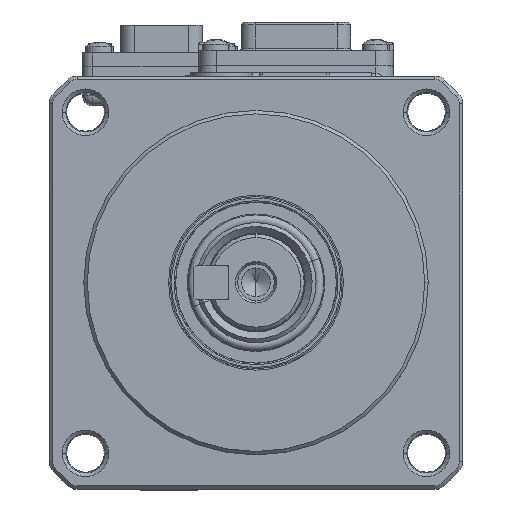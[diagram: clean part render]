
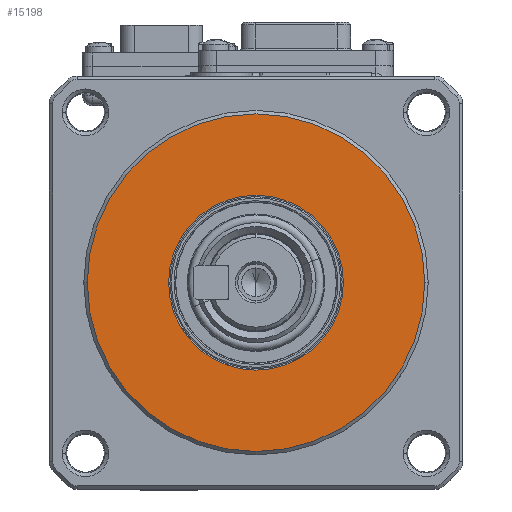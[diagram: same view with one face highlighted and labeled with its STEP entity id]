
A CAD part, top view. The second image highlights one B-rep face of the part: STEP entity #15198.
In plain terms, the highlighted planar face has unit normal (0, 0, 1).
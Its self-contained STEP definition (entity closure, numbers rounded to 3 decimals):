
#2461 = EDGE_CURVE ( 'NONE', #85872, #91630, #41793, .T. ) ;
#6939 = CARTESIAN_POINT ( 'NONE',  ( 0., 0., 0. ) ) ;
#7715 = CARTESIAN_POINT ( 'NONE',  ( 0., 0., 0. ) ) ;
#9434 = ORIENTED_EDGE ( 'NONE', *, *, #2461, .T. ) ;
#13039 = EDGE_LOOP ( 'NONE', ( #9434, #50023 ) ) ;
#13630 = FACE_BOUND ( 'NONE', #18419, .T. ) ;
#15198 = ADVANCED_FACE ( 'NONE', ( #13630, #58490 ), #95929, .F. ) ;
#16331 = ORIENTED_EDGE ( 'NONE', *, *, #41174, .T. ) ;
#18419 = EDGE_LOOP ( 'NONE', ( #16331, #58984 ) ) ;
#23161 = DIRECTION ( 'NONE',  ( 0., 0., 1. ) ) ;
#23427 = CARTESIAN_POINT ( 'NONE',  ( 24.5, 0., 0. ) ) ;
#24715 = CIRCLE ( 'NONE', #53399, 12.691 ) ;
#29905 = DIRECTION ( 'NONE',  ( 0., 0., -1. ) ) ;
#34923 = DIRECTION ( 'NONE',  ( 1., 0., 0. ) ) ;
#40954 = DIRECTION ( 'NONE',  ( 0., 0., 1. ) ) ;
#41174 = EDGE_CURVE ( 'NONE', #62418, #81203, #24715, .T. ) ;
#41793 = CIRCLE ( 'NONE', #67284, 24.5 ) ;
#42575 = DIRECTION ( 'NONE',  ( 0., 0., -1. ) ) ;
#49061 = EDGE_CURVE ( 'NONE', #91630, #85872, #92915, .T. ) ;
#50023 = ORIENTED_EDGE ( 'NONE', *, *, #49061, .T. ) ;
#53399 = AXIS2_PLACEMENT_3D ( 'NONE', #81734, #96211, #66779 ) ;
#54462 = CARTESIAN_POINT ( 'NONE',  ( -12.691, 0., 0. ) ) ;
#58342 = CARTESIAN_POINT ( 'NONE',  ( 0., 0., 0. ) ) ;
#58490 = FACE_OUTER_BOUND ( 'NONE', #13039, .T. ) ;
#58984 = ORIENTED_EDGE ( 'NONE', *, *, #76210, .T. ) ;
#62418 = VERTEX_POINT ( 'NONE', #54462 ) ;
#66779 = DIRECTION ( 'NONE',  ( -1., 0., 0. ) ) ;
#67284 = AXIS2_PLACEMENT_3D ( 'NONE', #58342, #40954, #34923 ) ;
#74234 = AXIS2_PLACEMENT_3D ( 'NONE', #6939, #29905, #75792 ) ;
#74985 = DIRECTION ( 'NONE',  ( -1., 0., 0. ) ) ;
#75792 = DIRECTION ( 'NONE',  ( -1., 0., 0. ) ) ;
#76210 = EDGE_CURVE ( 'NONE', #81203, #62418, #90092, .T. ) ;
#76551 = DIRECTION ( 'NONE',  ( 1., 0., 0. ) ) ;
#81203 = VERTEX_POINT ( 'NONE', #83716 ) ;
#81734 = CARTESIAN_POINT ( 'NONE',  ( 0., 0., 0. ) ) ;
#82456 = CARTESIAN_POINT ( 'NONE',  ( 0., 12.2, 0. ) ) ;
#83716 = CARTESIAN_POINT ( 'NONE',  ( 12.691, 0., 0. ) ) ;
#85872 = VERTEX_POINT ( 'NONE', #95258 ) ;
#89787 = AXIS2_PLACEMENT_3D ( 'NONE', #7715, #23161, #76551 ) ;
#90086 = AXIS2_PLACEMENT_3D ( 'NONE', #82456, #42575, #74985 ) ;
#90092 = CIRCLE ( 'NONE', #74234, 12.691 ) ;
#91630 = VERTEX_POINT ( 'NONE', #23427 ) ;
#92915 = CIRCLE ( 'NONE', #89787, 24.5 ) ;
#95258 = CARTESIAN_POINT ( 'NONE',  ( -24.5, 0., 0. ) ) ;
#95929 = PLANE ( 'NONE',  #90086 ) ;
#96211 = DIRECTION ( 'NONE',  ( 0., 0., -1. ) ) ;
